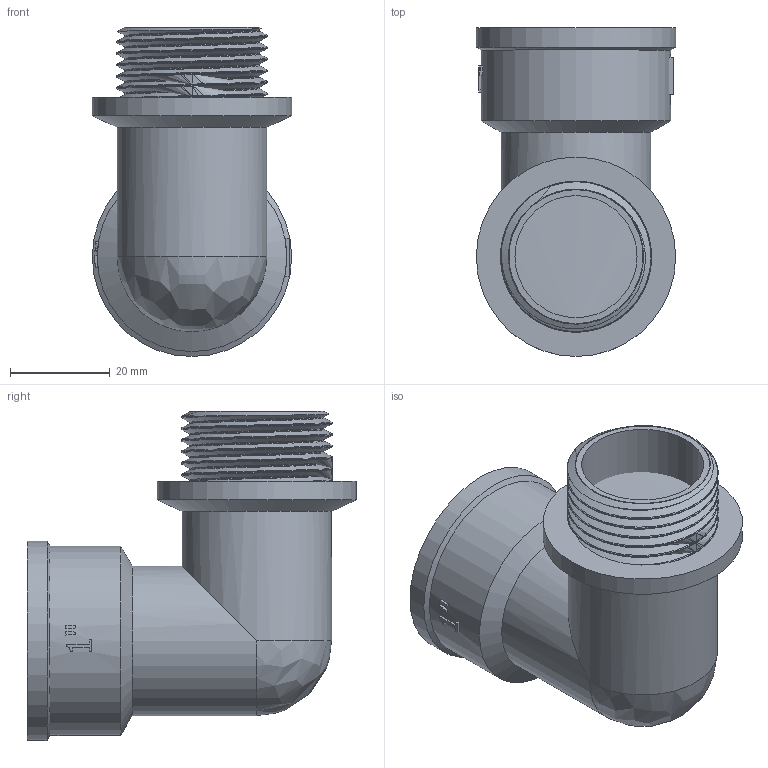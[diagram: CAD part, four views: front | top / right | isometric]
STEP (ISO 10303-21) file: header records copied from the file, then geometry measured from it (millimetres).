
FILE_DESCRIPTION(/* description */ (''),/* implementation_level */ '2;1');
FILE_NAME(/* name */ 'C:\Users\Doom\Desktop\Фадотех\Резьба\U13 18.03.2020\U13 18.03.2020.stp',/* time_stamp */ '2022-01-21T23:53:38+02:00',/* author */ ('Doom'),/* organization */ (''),/* preprocessor_version */ 'ST-DEVELOPER v18',/* originating_system */ 'Autodesk Inventor 2020',/* authorisation */ '');
FILE_SCHEMA (('AUTOMOTIVE_DESIGN { 1 0 10303 214 3 1 1 }'));
Length unit declared in the file: millimetre
Products named in the file (1): U12 18.03.2020
Bounding box: 40 x 66 x 66 mm (x, y, z)
Volume: 28245.3 mm3; surface area: 27507.1 mm2
Topology: 3 solids, 3 shells, 107 faces, 291 edges, 194 vertices
Faces by surface type: plane 50, cylinder 33, bspline 19, cone 5
Full cylindrical faces by diameter (mm): 24.5 x3, 26.866 x2, 29.816 x6, 30 x2, 30.29 x7, 33.24 x2, 34 x1, 38 x1, 40 x2
Entity records: 11078 total; most frequent: CARTESIAN_POINT 8451, ORIENTED_EDGE 574, DIRECTION 479, EDGE_CURVE 287, VERTEX_POINT 194, AXIS2_PLACEMENT_3D 181, EDGE_LOOP 121, LINE 117
